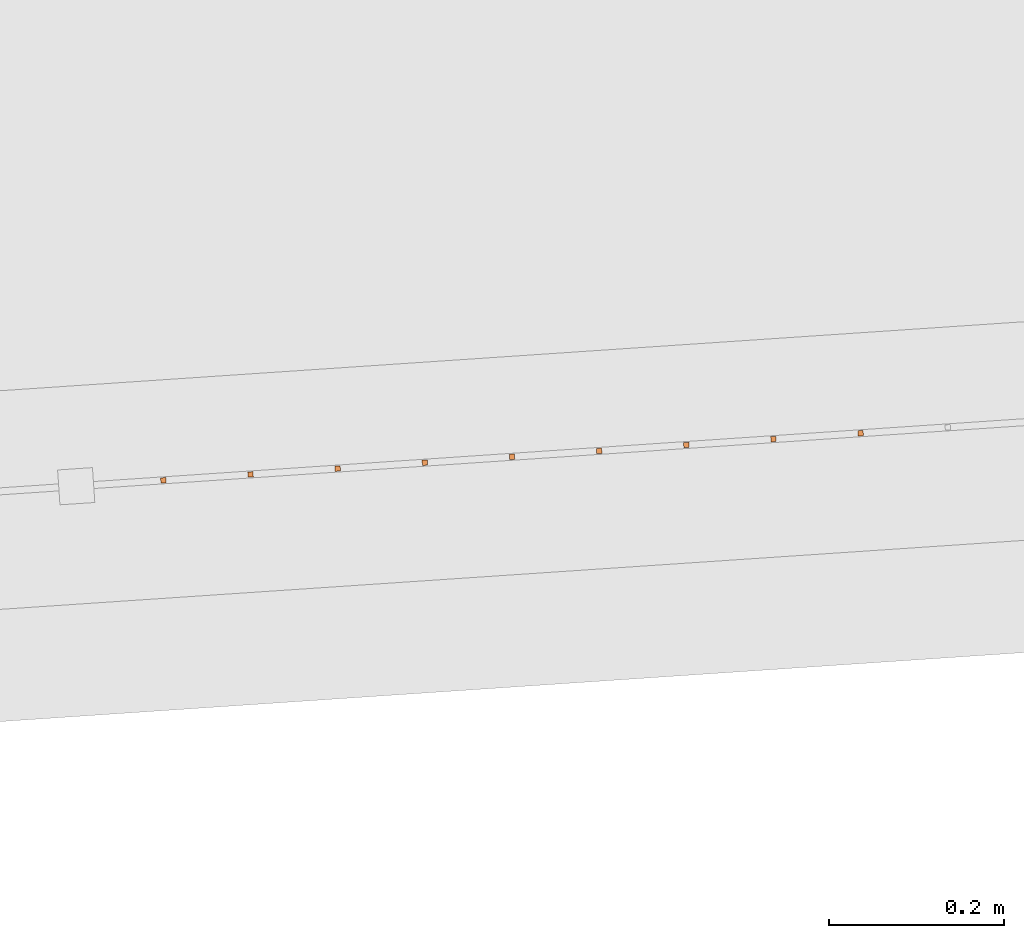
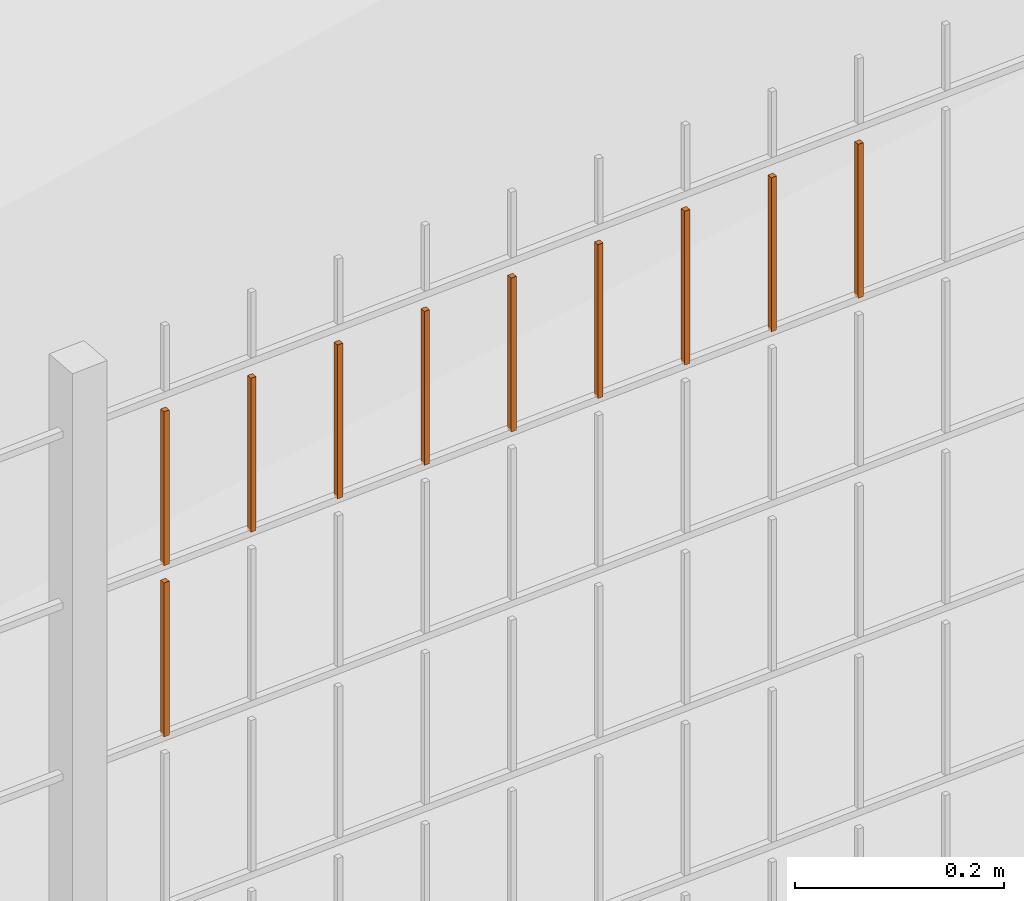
# One storey, part 114 of 1809: 10 proxies, 1 element without a shape of its own.
"""IFC2X3 building model written with IfcOpenShell, lengths in millimetres."""

from ifc_helpers import new_model, entity, si_unit, converted_unit, derived_unit, money_unit, direction, frame, origin_with_axes, place, context, subcontext, project, spatial, faceted_brep, source, transform, mapped, material, type_object, element, aggregate, save


model = new_model("IFC2X3")

# Units and contexts
model_context = context("Model", 3, precision=0.01, world=origin_with_axes(), true_north=direction((0.0, 1.0)))
body_context = subcontext(model_context, "Body", "Model", "MODEL_VIEW")
ifc_project = project(units=[si_unit("LENGTHUNIT", "METRE", prefix="MILLI"), si_unit("AREAUNIT", "SQUARE_METRE"), si_unit("VOLUMEUNIT", "CUBIC_METRE"), converted_unit("PLANEANGLEUNIT", "DEGREE", entity("IfcPlaneAngleMeasure", 0.0174532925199), si_unit("PLANEANGLEUNIT", "RADIAN"), dimensions=[0, 0, 0, 0, 0, 0, 0]), si_unit("SOLIDANGLEUNIT", "STERADIAN"), money_unit("EUR"), converted_unit("TIMEUNIT", "Year", entity("IfcTimeMeasure", 31556926.0), si_unit("TIMEUNIT", "SECOND"), dimensions=[0, 0, 1, 0, 0, 0, 0]), si_unit("MASSUNIT", "GRAM", prefix="KILO"), si_unit("THERMODYNAMICTEMPERATUREUNIT", "DEGREE_CELSIUS"), si_unit("LUMINOUSINTENSITYUNIT", "LUMEN"), si_unit("ENERGYUNIT", "JOULE", prefix="MEGA"), derived_unit("THERMALCONDUCTANCEUNIT", [(si_unit("POWERUNIT", "WATT"), 1), (si_unit("LENGTHUNIT", "METRE"), -1), (si_unit("THERMODYNAMICTEMPERATUREUNIT", "KELVIN"), -1)]), derived_unit("SPECIFICHEATCAPACITYUNIT", [(si_unit("ENERGYUNIT", "JOULE"), 1), (si_unit("MASSUNIT", "GRAM", prefix="KILO"), -1), (si_unit("THERMODYNAMICTEMPERATUREUNIT", "KELVIN"), -1)]), derived_unit("MASSDENSITYUNIT", [(si_unit("MASSUNIT", "GRAM", prefix="KILO"), 1), (si_unit("VOLUMEUNIT", "CUBIC_METRE"), -1)])], contexts=[model_context])

# Site, building, storey
site_placement = place(None, origin_with_axes())
site = spatial("IfcSite", under=ifc_project, at=site_placement, Name="Politse- ja Piirivalveameti ning Päästeameti ühishoone", CompositionType="ELEMENT")
building_placement = place(site_placement, origin_with_axes())
building = spatial("IfcBuilding", under=site, at=building_placement, Name="Politse- ja Piirivalveameti ning Päästeameti ühishoone", CompositionType="ELEMENT")
storey_placement = place(building_placement, origin_with_axes())
storey = spatial("IfcBuildingStorey", under=building, at=storey_placement, Name="Esimene korrus", CompositionType="ELEMENT", Elevation=0.0)

# Proxies
building_element_proxy_type_1 = type_object("IfcBuildingElementProxyType", Name="Railing Type", PredefinedType="NOTDEFINED")
proxy_1_placement = place(storey_placement, frame((89252.001212, -29183.4766571, 203.661247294), z_axis=(0.0, 0.0, 1.0), x_axis=(1.0, 0.0, 0.0)))
proxy_1 = element("IfcBuildingElementProxy", 1, at=proxy_1_placement, inside=storey, type_object=building_element_proxy_type_1, Name="PIIRDEAED")
ifc_material = material(Name="ET-03_Raud")
building_element_proxy_type_2 = type_object("IfcBuildingElementProxyType", Name="IfcBuildingElementProxy", PredefinedType="NOTDEFINED")
shared_shape_1 = source(origin_with_axes(), body_context, "Body", "Brep", [
    faceted_brep([(3.0, 3.0, -0.000752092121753), (-3.0, 3.0, -0.000752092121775), (-3.0, 3.0, 179.99926046), (3.0, 3.0, 179.99926046), (3.0, -3.0, 0.000752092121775), (-3.0, -3.0, 0.000752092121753), (-3.0, -3.0, 180.000764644), (3.0, -3.0, 180.000764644)], [[[0, 1, 2, 3]], [[0, 4, 5, 1]], [[1, 5, 6, 2]], [[3, 2, 6, 7]], [[4, 0, 3, 7]], [[5, 4, 7, 6]]]),
])
proxy_2_placement = place(proxy_1_placement, frame((-91717.6954236, -23492.9589574, 1804.18860624), z_axis=(0.0, 0.0, 1.0), x_axis=(1.0, 0.0, 0.0)))
proxy_2 = element("IfcBuildingElementProxy", 2, at=proxy_2_placement, type_object=building_element_proxy_type_2, material=ifc_material, Name="BALUSTER - 001", context=body_context, shape_type="MappedRepresentation", body=[
    mapped(shared_shape_1, transform((0.0, 0.0, 0.0), x_axis=(-0.0673926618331, 0.997726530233, 0.0), y_axis=(-0.997726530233, -0.0673926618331, 0.0), z_axis=(0.0, 0.0, 1.0))),
])
shared_shape_2 = source(origin_with_axes(), body_context, "Body", "Brep", [
    faceted_brep([(3.0, 3.0, -0.000752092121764), (-3.0, 3.0, -0.000752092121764), (-3.0, 3.0, 179.99926046), (3.0, 3.0, 179.99926046), (3.0, -3.0, 0.000752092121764), (-3.0, -3.0, 0.000752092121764), (-3.0, -3.0, 180.000764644), (3.0, -3.0, 180.000764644)], [[[0, 1, 2, 3]], [[0, 4, 5, 1]], [[1, 5, 6, 2]], [[3, 2, 6, 7]], [[4, 0, 3, 7]], [[5, 4, 7, 6]]]),
])
proxy_3_placement = place(proxy_1_placement, frame((-91817.4680766, -23499.6982236, 1804.16353651), z_axis=(0.0, 0.0, 1.0), x_axis=(1.0, 0.0, 0.0)))
proxy_3 = element("IfcBuildingElementProxy", 3, at=proxy_3_placement, type_object=building_element_proxy_type_2, material=ifc_material, Name="BALUSTER - 001", context=body_context, shape_type="MappedRepresentation", body=[
    mapped(shared_shape_2, transform((0.0, 0.0, 0.0), x_axis=(-0.0673926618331, 0.997726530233, 0.0), y_axis=(-0.997726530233, -0.0673926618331, 0.0), z_axis=(0.0, 0.0, 1.0))),
])
shared_shape_3 = source(origin_with_axes(), body_context, "Body", "Brep", [
    faceted_brep([(3.0, 3.0, -0.000752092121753), (-3.0, 3.0, -0.000752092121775), (-3.0, 3.0, 179.99926046), (3.0, 3.0, 179.99926046), (3.0, -3.0, 0.000752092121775), (-3.0, -3.0, 0.000752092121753), (-3.0, -3.0, 180.000764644), (3.0, -3.0, 180.000764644)], [[[0, 1, 2, 3]], [[0, 4, 5, 1]], [[1, 5, 6, 2]], [[3, 2, 6, 7]], [[4, 0, 3, 7]], [[5, 4, 7, 6]]]),
])
proxy_4_placement = place(proxy_1_placement, frame((-91917.2407297, -23506.4374897, 1804.13846677), z_axis=(0.0, 0.0, 1.0), x_axis=(1.0, 0.0, 0.0)))
proxy_4 = element("IfcBuildingElementProxy", 4, at=proxy_4_placement, type_object=building_element_proxy_type_2, material=ifc_material, Name="BALUSTER - 001", context=body_context, shape_type="MappedRepresentation", body=[
    mapped(shared_shape_3, transform((0.0, 0.0, 0.0), x_axis=(-0.0673926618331, 0.997726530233, 0.0), y_axis=(-0.997726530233, -0.0673926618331, 0.0), z_axis=(0.0, 0.0, 1.0))),
])
shared_shape_4 = source(origin_with_axes(), body_context, "Body", "Brep", [
    faceted_brep([(3.0, 3.0, -0.000752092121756), (-3.0, 3.0, -0.000752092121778), (-3.0, 3.0, 179.99926046), (3.0, 3.0, 179.99926046), (3.0, -3.0, 0.000752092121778), (-3.0, -3.0, 0.000752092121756), (-3.0, -3.0, 180.000764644), (3.0, -3.0, 180.000764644)], [[[0, 1, 2, 3]], [[0, 4, 5, 1]], [[1, 5, 6, 2]], [[3, 2, 6, 7]], [[4, 0, 3, 7]], [[5, 4, 7, 6]]]),
])
proxy_5_placement = place(proxy_1_placement, frame((-91318.6048115, -23466.0018926, 1804.28888519), z_axis=(0.0, 0.0, 1.0), x_axis=(1.0, 0.0, 0.0)))
proxy_5 = element("IfcBuildingElementProxy", 5, at=proxy_5_placement, type_object=building_element_proxy_type_2, material=ifc_material, Name="BALUSTER - 001", context=body_context, shape_type="MappedRepresentation", body=[
    mapped(shared_shape_4, transform((0.0, 0.0, 0.0), x_axis=(-0.0673926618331, 0.997726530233, 0.0), y_axis=(-0.997726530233, -0.0673926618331, 0.0), z_axis=(0.0, 0.0, 1.0))),
])
shared_shape_5 = source(origin_with_axes(), body_context, "Body", "Brep", [
    faceted_brep([(3.0, 3.0, -0.000752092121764), (-3.0, 3.0, -0.000752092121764), (-3.0, 3.0, 179.99926046), (3.0, 3.0, 179.99926046), (3.0, -3.0, 0.000752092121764), (-3.0, -3.0, 0.000752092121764), (-3.0, -3.0, 180.000764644), (3.0, -3.0, 180.000764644)], [[[0, 1, 2, 3]], [[0, 4, 5, 1]], [[1, 5, 6, 2]], [[3, 2, 6, 7]], [[4, 0, 3, 7]], [[5, 4, 7, 6]]]),
])
proxy_6_placement = place(proxy_1_placement, frame((-91418.3774645, -23472.7411588, 1804.26381546), z_axis=(0.0, 0.0, 1.0), x_axis=(1.0, 0.0, 0.0)))
proxy_6 = element("IfcBuildingElementProxy", 6, at=proxy_6_placement, type_object=building_element_proxy_type_2, material=ifc_material, Name="BALUSTER - 001", context=body_context, shape_type="MappedRepresentation", body=[
    mapped(shared_shape_5, transform((0.0, 0.0, 0.0), x_axis=(-0.0673926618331, 0.997726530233, 0.0), y_axis=(-0.997726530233, -0.0673926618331, 0.0), z_axis=(0.0, 0.0, 1.0))),
])
shared_shape_6 = source(origin_with_axes(), body_context, "Body", "Brep", [
    faceted_brep([(3.0, 3.0, -0.000752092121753), (-3.0, 3.0, -0.000752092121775), (-3.0, 3.0, 179.99926046), (3.0, 3.0, 179.99926046), (3.0, -3.0, 0.000752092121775), (-3.0, -3.0, 0.000752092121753), (-3.0, -3.0, 180.000764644), (3.0, -3.0, 180.000764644)], [[[0, 1, 2, 3]], [[0, 4, 5, 1]], [[1, 5, 6, 2]], [[3, 2, 6, 7]], [[4, 0, 3, 7]], [[5, 4, 7, 6]]]),
])
proxy_7_placement = place(proxy_1_placement, frame((-92017.0133827, -23513.1767559, 1804.11339703), z_axis=(0.0, 0.0, 1.0), x_axis=(1.0, 0.0, 0.0)))
proxy_7 = element("IfcBuildingElementProxy", 7, at=proxy_7_placement, type_object=building_element_proxy_type_2, material=ifc_material, Name="BALUSTER - 001", context=body_context, shape_type="MappedRepresentation", body=[
    mapped(shared_shape_6, transform((0.0, 0.0, 0.0), x_axis=(-0.0673926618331, 0.997726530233, 0.0), y_axis=(-0.997726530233, -0.0673926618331, 0.0), z_axis=(0.0, 0.0, 1.0))),
])
shared_shape_7 = source(origin_with_axes(), body_context, "Body", "Brep", [
    faceted_brep([(3.0, 3.0, -0.000752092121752), (-3.0, 3.0, -0.000752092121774), (-3.0, 3.0, 179.99926046), (3.0, 3.0, 179.99926046), (3.0, -3.0, 0.000752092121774), (-3.0, -3.0, 0.000752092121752), (-3.0, -3.0, 180.000764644), (3.0, -3.0, 180.000764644)], [[[0, 1, 2, 3]], [[0, 4, 5, 1]], [[1, 5, 6, 2]], [[3, 2, 6, 7]], [[4, 0, 3, 7]], [[5, 4, 7, 6]]]),
])
proxy_8_placement = place(proxy_1_placement, frame((-91518.1501176, -23479.480425, 1804.23874572), z_axis=(0.0, 0.0, 1.0), x_axis=(1.0, 0.0, 0.0)))
proxy_8 = element("IfcBuildingElementProxy", 8, at=proxy_8_placement, type_object=building_element_proxy_type_2, material=ifc_material, Name="BALUSTER - 001", context=body_context, shape_type="MappedRepresentation", body=[
    mapped(shared_shape_7, transform((0.0, 0.0, 0.0), x_axis=(-0.0673926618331, 0.997726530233, 0.0), y_axis=(-0.997726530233, -0.0673926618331, 0.0), z_axis=(0.0, 0.0, 1.0))),
])
shared_shape_8 = source(origin_with_axes(), body_context, "Body", "Brep", [
    faceted_brep([(3.0, 3.0, -0.000752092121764), (-3.0, 3.0, -0.000752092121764), (-3.0, 3.0, 179.99926046), (3.0, 3.0, 179.99926046), (3.0, -3.0, 0.000752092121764), (-3.0, -3.0, 0.000752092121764), (-3.0, -3.0, 180.000764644), (3.0, -3.0, 180.000764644)], [[[0, 1, 2, 3]], [[0, 4, 5, 1]], [[1, 5, 6, 2]], [[3, 2, 6, 7]], [[4, 0, 3, 7]], [[5, 4, 7, 6]]]),
])
proxy_9_placement = place(proxy_1_placement, frame((-91617.9227706, -23486.2196912, 1804.21367598), z_axis=(0.0, 0.0, 1.0), x_axis=(1.0, 0.0, 0.0)))
proxy_9 = element("IfcBuildingElementProxy", 9, at=proxy_9_placement, type_object=building_element_proxy_type_2, material=ifc_material, Name="BALUSTER - 001", context=body_context, shape_type="MappedRepresentation", body=[
    mapped(shared_shape_8, transform((0.0, 0.0, 0.0), x_axis=(-0.0673926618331, 0.997726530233, 0.0), y_axis=(-0.997726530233, -0.0673926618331, 0.0), z_axis=(0.0, 0.0, 1.0))),
])
shared_shape_9 = source(origin_with_axes(), body_context, "Body", "Brep", [
    faceted_brep([(3.0, 3.0, -0.000752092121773), (-3.0, 3.0, -0.000752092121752), (-3.0, 3.0, 179.99926046), (3.0, 3.0, 179.99926046), (3.0, -3.0, 0.000752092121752), (-3.0, -3.0, 0.000752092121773), (-3.0, -3.0, 180.000764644), (3.0, -3.0, 180.000764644)], [[[0, 1, 2, 3]], [[0, 4, 5, 1]], [[1, 5, 6, 2]], [[3, 2, 6, 7]], [[4, 0, 3, 7]], [[5, 4, 7, 6]]]),
])
proxy_10_placement = place(proxy_1_placement, frame((-91218.8321585, -23459.2626265, 1804.31395493), z_axis=(0.0, 0.0, 1.0), x_axis=(1.0, 0.0, 0.0)))
proxy_10 = element("IfcBuildingElementProxy", 10, at=proxy_10_placement, type_object=building_element_proxy_type_2, material=ifc_material, Name="BALUSTER - 001", context=body_context, shape_type="MappedRepresentation", body=[
    mapped(shared_shape_9, transform((0.0, 0.0, 0.0), x_axis=(-0.0673926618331, 0.997726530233, 0.0), y_axis=(-0.997726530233, -0.0673926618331, 0.0), z_axis=(0.0, 0.0, 1.0))),
])
shared_shape_10 = source(origin_with_axes(), body_context, "Body", "Brep", [
    faceted_brep([(3.0, 3.0, -0.000752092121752), (-3.0, 3.0, -0.000752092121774), (-3.0, 3.0, 179.99926046), (3.0, 3.0, 179.99926046), (3.0, -3.0, 0.000752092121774), (-3.0, -3.0, 0.000752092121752), (-3.0, -3.0, 180.000764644), (3.0, -3.0, 180.000764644)], [[[0, 1, 2, 3]], [[0, 4, 5, 1]], [[1, 5, 6, 2]], [[3, 2, 6, 7]], [[4, 0, 3, 7]], [[5, 4, 7, 6]]]),
])
proxy_11_placement = place(proxy_1_placement, frame((-92017.0133827, -23513.1767559, 1604.11339703), z_axis=(0.0, 0.0, 1.0), x_axis=(1.0, 0.0, 0.0)))
proxy_11 = element("IfcBuildingElementProxy", 11, at=proxy_11_placement, type_object=building_element_proxy_type_2, material=ifc_material, Name="BALUSTER - 001", context=body_context, shape_type="MappedRepresentation", body=[
    mapped(shared_shape_10, transform((0.0, 0.0, 0.0), x_axis=(-0.0673926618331, 0.997726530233, 0.0), y_axis=(-0.997726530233, -0.0673926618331, 0.0), z_axis=(0.0, 0.0, 1.0))),
])
aggregate(proxy_1, [proxy_11, proxy_10, proxy_5, proxy_6, proxy_8, proxy_9, proxy_2, proxy_3, proxy_4, proxy_7])

save(model, "model.ifc")
